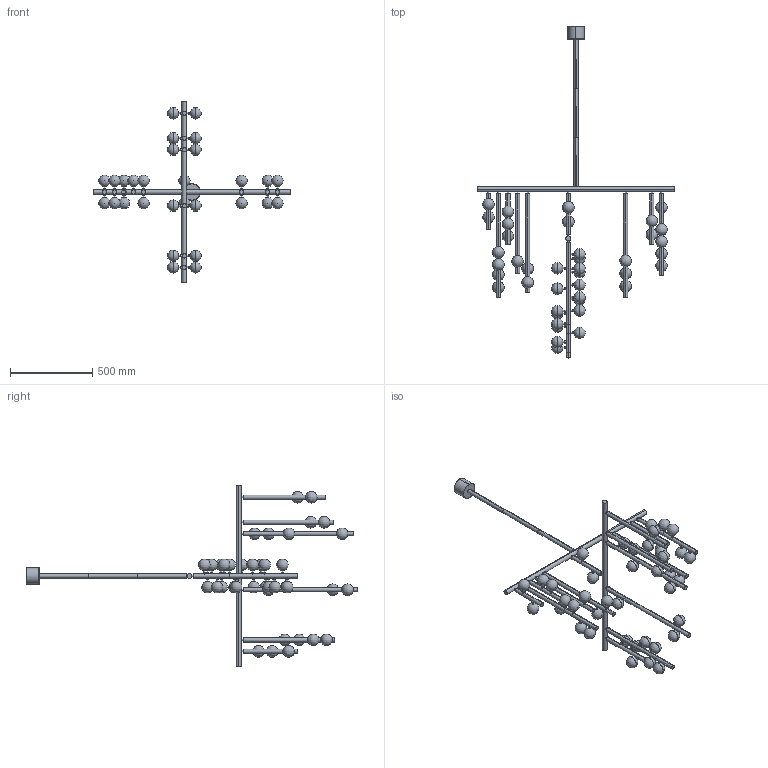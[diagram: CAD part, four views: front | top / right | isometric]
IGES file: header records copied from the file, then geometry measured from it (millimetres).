
Start section: SolidWorks IGES file using analytic representation for surfaces
Global section: file name: F:\燠隴矨\3D\2024-7\Brass Glass Drop Chandelier-42heads.IGS,15; native system: HSolidWorks 2022; preprocessor: SolidWorks 2022; author: MyPC; date: 240706.194956; units: millimetre
Bounding box: 1200 x 2021.12 x 1100 mm (x, y, z)
Surface area: 2065585.5 mm2 (no closed solid volume)
Topology: 0 solids, 0 shells, 571 faces, 9328 edges, 9244 vertices
Faces by surface type: revolution 328, bspline 243
